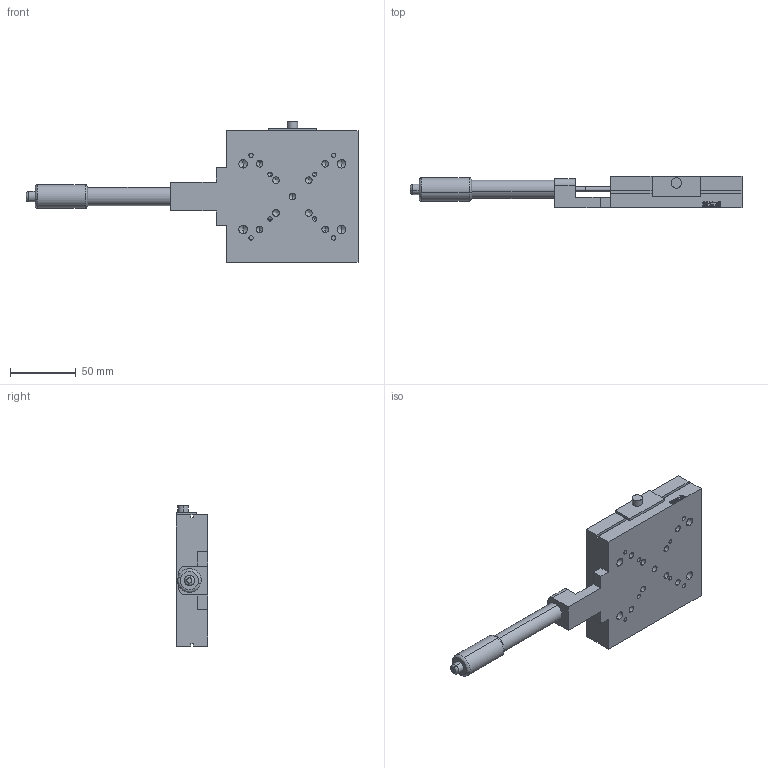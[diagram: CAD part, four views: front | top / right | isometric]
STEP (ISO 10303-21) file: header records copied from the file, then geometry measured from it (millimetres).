
FILE_DESCRIPTION (( 'STEP AP214' ), '1' );
FILE_NAME ('PT110-50-100H.STEP', '2022-09-03T02:19:06', ( '' ), ( '' ), 'SwSTEP 2.0', 'SolidWorks 2017', '' );
FILE_SCHEMA (( 'AUTOMOTIVE_DESIGN' ));
Length unit declared in the file: millimetre
Products named in the file (3): PT110-50-100H峚煦芛_1; PT110-50-100H; PT110-50-100H平移台
Assembly tree (2 placements, depth 2):
  PT110-50-100H
    PT110-50-100H平移台
    PT110-50-100H峚煦芛_1
Bounding box: 253 x 24 x 107 mm (x, y, z)
Volume: 264811.5 mm3; surface area: 48476.8 mm2
Topology: 2 solids, 2 shells, 590 faces, 1555 edges, 989 vertices
Faces by surface type: plane 272, bspline 158, cylinder 92, cone 68
Entity records: 24027 total; most frequent: CARTESIAN_POINT 10568, ORIENTED_EDGE 2968, DIRECTION 2282, EDGE_CURVE 1484, VERTEX_POINT 988, LINE 944, VECTOR 944, EDGE_LOOP 684
